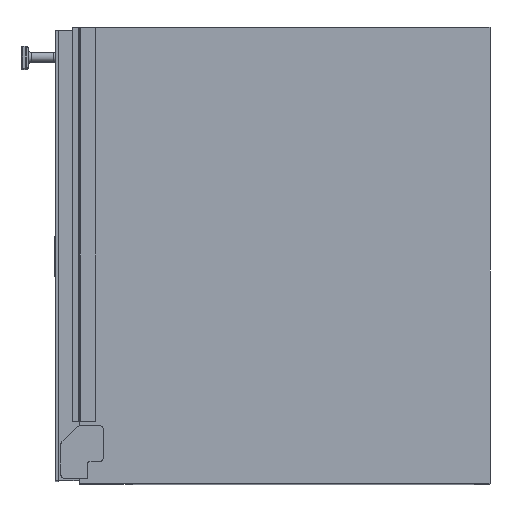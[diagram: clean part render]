
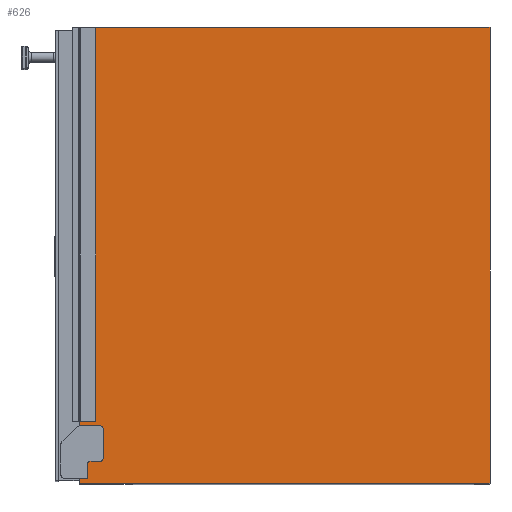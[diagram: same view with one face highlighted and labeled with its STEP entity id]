
A CAD part, top view. The second image highlights one B-rep face of the part: STEP entity #626.
In plain terms, the highlighted planar face has unit normal (0, 0, 1).
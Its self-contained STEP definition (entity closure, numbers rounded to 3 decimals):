
#212=CIRCLE('',#3560,5.);
#213=CIRCLE('',#3561,3.);
#214=CIRCLE('',#3562,3.);
#215=CIRCLE('',#3563,3.);
#216=CIRCLE('',#3564,3.);
#626=ADVANCED_FACE('',(#939),#779,.F.);
#779=PLANE('',#3565);
#939=FACE_OUTER_BOUND('',#1135,.T.);
#1135=EDGE_LOOP('',(#1784,#1785,#1786,#1787,#1788,#1789,#1790,#1791,#1792,
#1793,#1794,#1795,#1796,#1797,#1798,#1799,#1800,#1801,#1802));
#1784=ORIENTED_EDGE('',*,*,#2642,.F.);
#1785=ORIENTED_EDGE('',*,*,#2643,.F.);
#1786=ORIENTED_EDGE('',*,*,#2644,.T.);
#1787=ORIENTED_EDGE('',*,*,#2645,.T.);
#1788=ORIENTED_EDGE('',*,*,#2646,.F.);
#1789=ORIENTED_EDGE('',*,*,#2647,.T.);
#1790=ORIENTED_EDGE('',*,*,#2648,.T.);
#1791=ORIENTED_EDGE('',*,*,#2649,.T.);
#1792=ORIENTED_EDGE('',*,*,#2650,.T.);
#1793=ORIENTED_EDGE('',*,*,#2651,.T.);
#1794=ORIENTED_EDGE('',*,*,#2652,.T.);
#1795=ORIENTED_EDGE('',*,*,#2653,.T.);
#1796=ORIENTED_EDGE('',*,*,#2654,.T.);
#1797=ORIENTED_EDGE('',*,*,#2655,.T.);
#1798=ORIENTED_EDGE('',*,*,#2656,.T.);
#1799=ORIENTED_EDGE('',*,*,#2657,.F.);
#1800=ORIENTED_EDGE('',*,*,#2658,.F.);
#1801=ORIENTED_EDGE('',*,*,#2659,.T.);
#1802=ORIENTED_EDGE('',*,*,#2660,.T.);
#2258=VERTEX_POINT('',#5487);
#2259=VERTEX_POINT('',#5488);
#2260=VERTEX_POINT('',#5490);
#2261=VERTEX_POINT('',#5492);
#2262=VERTEX_POINT('',#5494);
#2263=VERTEX_POINT('',#5496);
#2264=VERTEX_POINT('',#5498);
#2265=VERTEX_POINT('',#5500);
#2266=VERTEX_POINT('',#5502);
#2267=VERTEX_POINT('',#5504);
#2268=VERTEX_POINT('',#5506);
#2269=VERTEX_POINT('',#5508);
#2270=VERTEX_POINT('',#5510);
#2271=VERTEX_POINT('',#5512);
#2272=VERTEX_POINT('',#5514);
#2273=VERTEX_POINT('',#5516);
#2274=VERTEX_POINT('',#5518);
#2275=VERTEX_POINT('',#5520);
#2276=VERTEX_POINT('',#5522);
#2642=EDGE_CURVE('',#2258,#2259,#2975,.T.);
#2643=EDGE_CURVE('',#2260,#2258,#2976,.T.);
#2644=EDGE_CURVE('',#2260,#2261,#2977,.T.);
#2645=EDGE_CURVE('',#2261,#2262,#2978,.T.);
#2646=EDGE_CURVE('',#2263,#2262,#2979,.T.);
#2647=EDGE_CURVE('',#2263,#2264,#212,.T.);
#2648=EDGE_CURVE('',#2264,#2265,#2980,.T.);
#2649=EDGE_CURVE('',#2265,#2266,#213,.T.);
#2650=EDGE_CURVE('',#2266,#2267,#2981,.T.);
#2651=EDGE_CURVE('',#2267,#2268,#214,.T.);
#2652=EDGE_CURVE('',#2268,#2269,#2982,.T.);
#2653=EDGE_CURVE('',#2269,#2270,#215,.T.);
#2654=EDGE_CURVE('',#2270,#2271,#2983,.T.);
#2655=EDGE_CURVE('',#2271,#2272,#216,.T.);
#2656=EDGE_CURVE('',#2272,#2273,#2984,.T.);
#2657=EDGE_CURVE('',#2274,#2273,#2985,.T.);
#2658=EDGE_CURVE('',#2275,#2274,#2986,.T.);
#2659=EDGE_CURVE('',#2275,#2276,#2987,.T.);
#2660=EDGE_CURVE('',#2276,#2259,#2988,.T.);
#2975=LINE('',#5486,#3270);
#2976=LINE('',#5489,#3271);
#2977=LINE('',#5491,#3272);
#2978=LINE('',#5493,#3273);
#2979=LINE('',#5495,#3274);
#2980=LINE('',#5499,#3275);
#2981=LINE('',#5503,#3276);
#2982=LINE('',#5507,#3277);
#2983=LINE('',#5511,#3278);
#2984=LINE('',#5515,#3279);
#2985=LINE('',#5517,#3280);
#2986=LINE('',#5519,#3281);
#2987=LINE('',#5521,#3282);
#2988=LINE('',#5523,#3283);
#3270=VECTOR('',#4256,1.);
#3271=VECTOR('',#4257,1.);
#3272=VECTOR('',#4258,1.);
#3273=VECTOR('',#4259,1.);
#3274=VECTOR('',#4260,1.);
#3275=VECTOR('',#4263,1.);
#3276=VECTOR('',#4266,1.);
#3277=VECTOR('',#4269,1.);
#3278=VECTOR('',#4272,1.);
#3279=VECTOR('',#4275,1.);
#3280=VECTOR('',#4276,1.);
#3281=VECTOR('',#4277,1.);
#3282=VECTOR('',#4278,1.);
#3283=VECTOR('',#4279,1.);
#3560=AXIS2_PLACEMENT_3D('',#5497,#4261,#4262);
#3561=AXIS2_PLACEMENT_3D('',#5501,#4264,#4265);
#3562=AXIS2_PLACEMENT_3D('',#5505,#4267,#4268);
#3563=AXIS2_PLACEMENT_3D('',#5509,#4270,#4271);
#3564=AXIS2_PLACEMENT_3D('',#5513,#4273,#4274);
#3565=AXIS2_PLACEMENT_3D('',#5524,#4280,#4281);
#4256=DIRECTION('',(0.,1.,0.));
#4257=DIRECTION('',(1.,0.,0.));
#4258=DIRECTION('',(0.,1.,0.));
#4259=DIRECTION('',(-1.,0.,0.));
#4260=DIRECTION('',(0.,1.,0.));
#4261=DIRECTION('',(0.,0.,-1.));
#4262=DIRECTION('',(0.,-1.,0.));
#4263=DIRECTION('',(1.,0.,0.));
#4264=DIRECTION('',(0.,0.,-1.));
#4265=DIRECTION('',(0.,-1.,0.));
#4266=DIRECTION('',(0.,-1.,0.));
#4267=DIRECTION('',(0.,0.,-1.));
#4268=DIRECTION('',(0.,-1.,0.));
#4269=DIRECTION('',(-1.,0.,0.));
#4270=DIRECTION('',(0.,0.,1.));
#4271=DIRECTION('',(0.,-1.,0.));
#4272=DIRECTION('',(0.,-1.,0.));
#4273=DIRECTION('',(0.,0.,-1.));
#4274=DIRECTION('',(0.,-1.,0.));
#4275=DIRECTION('',(-1.,0.,0.));
#4276=DIRECTION('',(0.,1.,0.));
#4277=DIRECTION('',(-1.,0.,0.));
#4278=DIRECTION('',(0.,1.,0.));
#4279=DIRECTION('',(-1.,0.,0.));
#4280=DIRECTION('',(0.,0.,-1.));
#4281=DIRECTION('',(-1.,0.,0.));
#5486=CARTESIAN_POINT('',(-514.2,-216.5,800.));
#5487=CARTESIAN_POINT('',(-514.2,-216.5,800.));
#5488=CARTESIAN_POINT('',(-514.2,297.5,800.));
#5489=CARTESIAN_POINT('',(-534.2,-216.5,800.));
#5490=CARTESIAN_POINT('',(-534.2,-216.5,800.));
#5491=CARTESIAN_POINT('',(-534.2,-216.5,800.));
#5492=CARTESIAN_POINT('',(-534.2,297.5,800.));
#5493=CARTESIAN_POINT('',(0.,297.5,800.));
#5494=CARTESIAN_POINT('',(-536.,297.5,800.));
#5495=CARTESIAN_POINT('',(-536.,-297.5,800.));
#5496=CARTESIAN_POINT('',(-536.,-222.501,800.));
#5497=CARTESIAN_POINT('',(-535.929,-227.5,800.));
#5498=CARTESIAN_POINT('',(-535.929,-222.5,800.));
#5499=CARTESIAN_POINT('',(-535.929,-222.5,800.));
#5500=CARTESIAN_POINT('',(-508.,-222.5,800.));
#5501=CARTESIAN_POINT('',(-508.,-225.5,800.));
#5502=CARTESIAN_POINT('',(-505.,-225.5,800.));
#5503=CARTESIAN_POINT('',(-505.,-225.5,800.));
#5504=CARTESIAN_POINT('',(-505.,-265.5,800.));
#5505=CARTESIAN_POINT('',(-508.,-265.5,800.));
#5506=CARTESIAN_POINT('',(-508.,-268.5,800.));
#5507=CARTESIAN_POINT('',(-508.,-268.5,800.));
#5508=CARTESIAN_POINT('',(-522.,-268.5,800.));
#5509=CARTESIAN_POINT('',(-522.,-271.5,800.));
#5510=CARTESIAN_POINT('',(-525.,-271.5,800.));
#5511=CARTESIAN_POINT('',(-525.,-271.5,800.));
#5512=CARTESIAN_POINT('',(-525.,-288.5,800.));
#5513=CARTESIAN_POINT('',(-528.,-288.5,800.));
#5514=CARTESIAN_POINT('',(-528.,-291.5,800.));
#5515=CARTESIAN_POINT('',(-528.,-291.5,800.));
#5516=CARTESIAN_POINT('',(-536.,-291.5,800.));
#5517=CARTESIAN_POINT('',(-536.,-297.5,800.));
#5518=CARTESIAN_POINT('',(-536.,-297.5,800.));
#5519=CARTESIAN_POINT('',(0.,-297.5,800.));
#5520=CARTESIAN_POINT('',(0.,-297.5,800.));
#5521=CARTESIAN_POINT('',(0.,-297.5,800.));
#5522=CARTESIAN_POINT('',(0.,297.5,800.));
#5523=CARTESIAN_POINT('',(0.,297.5,800.));
#5524=CARTESIAN_POINT('',(0.,-297.5,800.));
